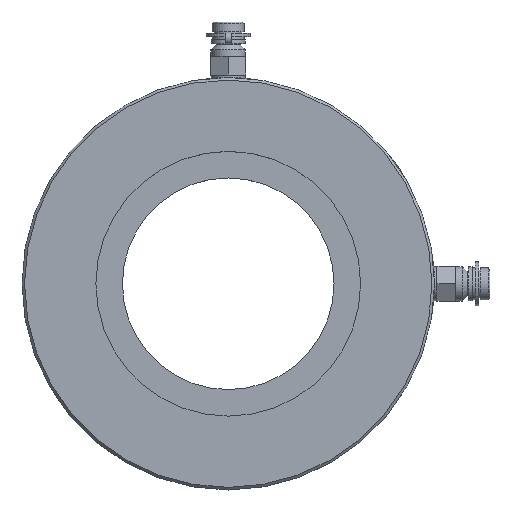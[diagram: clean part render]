
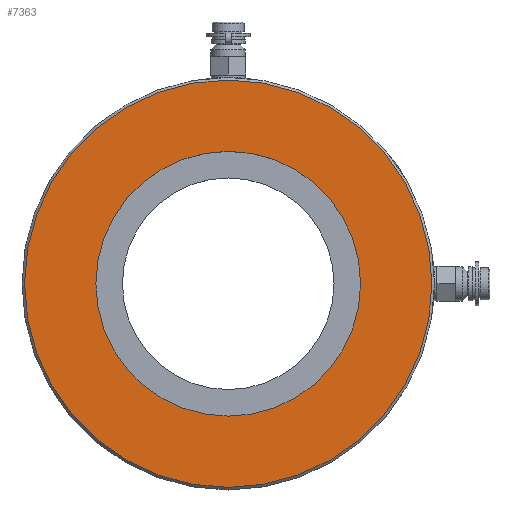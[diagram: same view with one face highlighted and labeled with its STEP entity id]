
A CAD part, top view. The second image highlights one B-rep face of the part: STEP entity #7363.
In plain terms, the highlighted planar face has unit normal (0, 0, 1).
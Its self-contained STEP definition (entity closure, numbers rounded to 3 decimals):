
#7329=CARTESIAN_POINT('',(81.,0.,9.0));
#7330=VERTEX_POINT('',#7329);
#7331=CARTESIAN_POINT('',(0.0,0.0,9.0));
#7332=DIRECTION('',(0.0,0.0,-1.0));
#7333=DIRECTION('',(-1.0,0.0,0.0));
#7334=AXIS2_PLACEMENT_3D('',#7331,#7332,#7333);
#7335=CIRCLE('',#7334,81.);
#7336=EDGE_CURVE('',#7330,#7330,#7335,.T.);
#7344=CARTESIAN_POINT('',(0.0,0.0,9.0));
#7345=DIRECTION('',(0.0,0.0,-1.0));
#7346=DIRECTION('',(-1.0,0.0,0.0));
#7347=AXIS2_PLACEMENT_3D('',#7344,#7345,#7346);
#7348=PLANE('',#7347);
#7349=ORIENTED_EDGE('',*,*,#7336,.F.);
#7350=EDGE_LOOP('',(#7349));
#7351=FACE_OUTER_BOUND('',#7350,.T.);
#7352=CARTESIAN_POINT('',(52.65,0.,9.0));
#7353=VERTEX_POINT('',#7352);
#7354=CARTESIAN_POINT('',(0.0,0.0,9.0));
#7355=DIRECTION('',(0.0,0.0,-1.0));
#7356=DIRECTION('',(-1.0,0.0,0.0));
#7357=AXIS2_PLACEMENT_3D('',#7354,#7355,#7356);
#7358=CIRCLE('',#7357,52.65);
#7359=EDGE_CURVE('',#7353,#7353,#7358,.T.);
#7360=ORIENTED_EDGE('',*,*,#7359,.T.);
#7361=EDGE_LOOP('',(#7360));
#7362=FACE_BOUND('',#7361,.T.);
#7363=ADVANCED_FACE('',(#7351,#7362),#7348,.F.);
